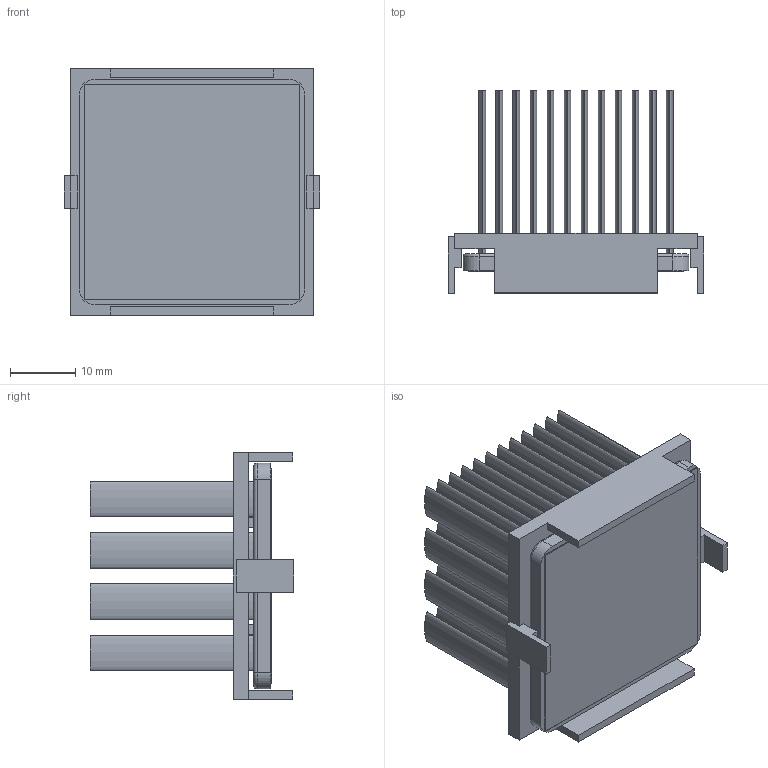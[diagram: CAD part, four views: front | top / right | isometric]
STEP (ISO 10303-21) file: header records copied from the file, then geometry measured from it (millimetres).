
FILE_DESCRIPTION (( 'STEP AP214' ), '1' );
FILE_NAME ('INM35001-28W-2.6Y.STEP', '2023-02-20T22:35:36', ( '' ), ( '' ), 'SwSTEP 2.0', 'SolidWorks 2020', '' );
FILE_SCHEMA (( 'AUTOMOTIVE_DESIGN' ));
Length unit declared in the file: inch
Products named in the file (1): INM35001-28W-2.6Y
Bounding box: 39.2 x 31.1 x 37.7 mm (x, y, z)
Volume: 10507.2 mm3; surface area: 21386.3 mm2
Topology: 3 solids, 3 shells, 226 faces, 508 edges, 336 vertices
Faces by surface type: plane 118, bspline 96, cylinder 8, torus 4
Entity records: 9460 total; most frequent: CARTESIAN_POINT 2319, ORIENTED_EDGE 1016, DIRECTION 598, EDGE_CURVE 508, VERTEX_POINT 336, VECTOR 296, LINE 296, EDGE_LOOP 276
